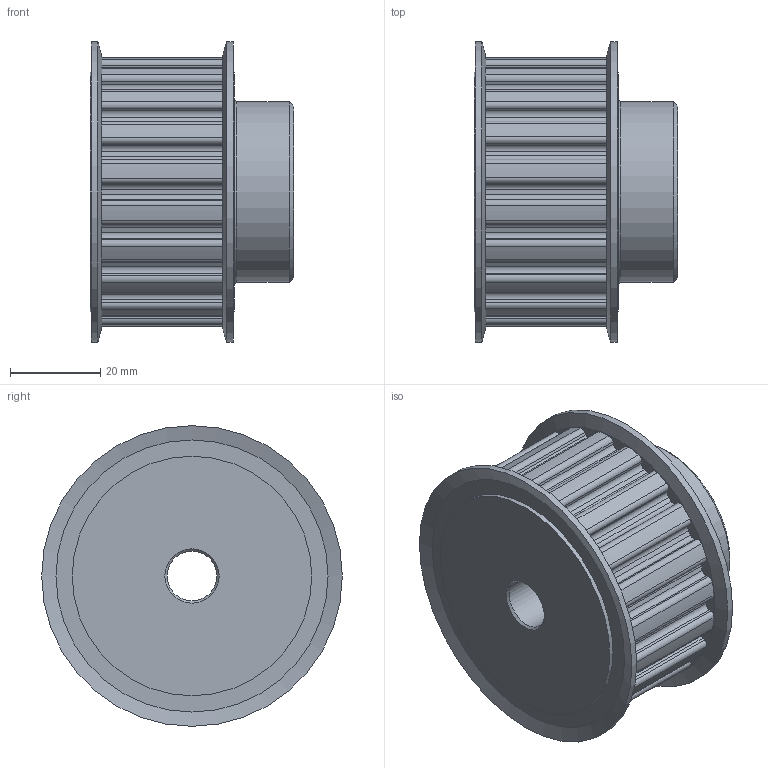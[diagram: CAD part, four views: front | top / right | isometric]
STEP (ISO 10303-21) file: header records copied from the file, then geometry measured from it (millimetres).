
FILE_DESCRIPTION(/* description */ ('PULEGGE 20 L 100 F'),/* implementation_level */ '2;1');
FILE_NAME(/* name */ 'w:\documenti\Disegni dwg\Catalogo\Pulegge\L\100\stp\42100020.stp',/* time_stamp */ '2023-05-22T08:30:58+02:00',/* author */ ('carlo.bersi'),/* organization */ (''),/* preprocessor_version */ 'ST-DEVELOPER v19',/* originating_system */ 'Autodesk Inventor 2023',/* authorisation */ '');
FILE_SCHEMA (('CONFIG_CONTROL_DESIGN'));
Length unit declared in the file: millimetre
Products named in the file (3): 42100020; 42100020_1; 49200060
Assembly tree (3 placements, depth 2):
  42100020
    42100020_1
    49200060  x2
Bounding box: 45 x 66.5 x 66.5 mm (x, y, z)
Volume: 97518.9 mm3; surface area: 21856.9 mm2
Topology: 3 solids, 3 shells, 185 faces, 521 edges, 345 vertices
Faces by surface type: cylinder 108, plane 69, cone 7, torus 1
Full cylindrical faces by diameter (mm): 11 x1, 40 x1, 53 x4, 66.5 x2
Entity records: 6057 total; most frequent: DIRECTION 1101, CARTESIAN_POINT 1035, ORIENTED_EDGE 1022, EDGE_CURVE 511, AXIS2_PLACEMENT_3D 405, VERTEX_POINT 339, LINE 291, VECTOR 291
